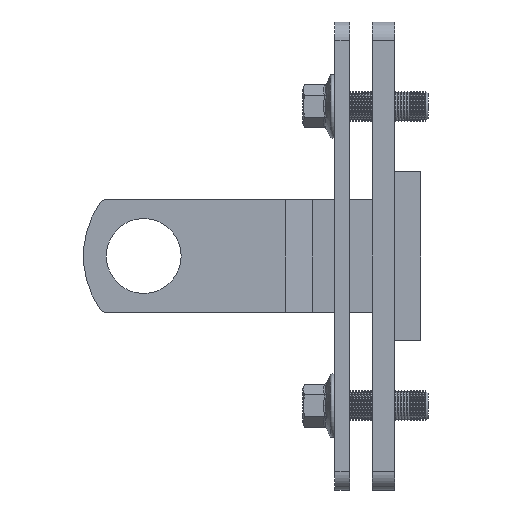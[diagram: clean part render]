
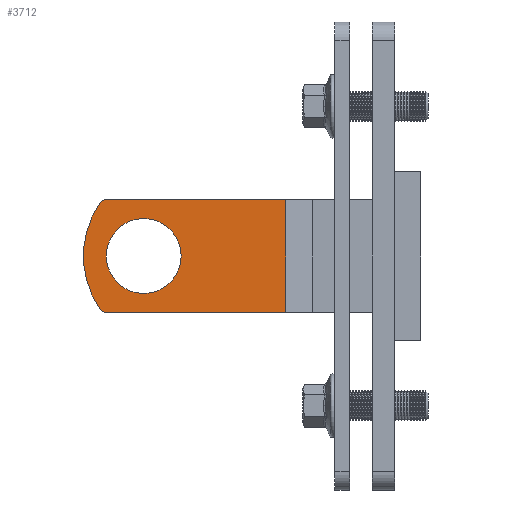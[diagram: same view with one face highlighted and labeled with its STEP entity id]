
A CAD part, left-side view. The second image highlights one B-rep face of the part: STEP entity #3712.
In plain terms, the highlighted planar face has unit normal (-1, 0, 0) as drawn and (0, 1, 0) by its records, which use the part's own axes.
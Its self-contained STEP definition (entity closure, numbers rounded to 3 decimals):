
#31 = CIRCLE ( 'NONE', #2832, 10. ) ;
#53 = EDGE_LOOP ( 'NONE', ( #3690, #7248, #247, #7037, #1002, #3991 ) ) ;
#179 = DIRECTION ( 'NONE',  ( 0., 1., 0. ) ) ;
#247 = ORIENTED_EDGE ( 'NONE', *, *, #1739, .T. ) ;
#267 = CARTESIAN_POINT ( 'NONE',  ( 14.13, -7.5, 85.724 ) ) ;
#586 = LINE ( 'NONE', #5567, #2510 ) ;
#651 = AXIS2_PLACEMENT_3D ( 'NONE', #2727, #179, #5789 ) ;
#864 = DIRECTION ( 'NONE',  ( 0., 0., 1. ) ) ;
#879 = CARTESIAN_POINT ( 'NONE',  ( 15., -7.5, 36. ) ) ;
#935 = CARTESIAN_POINT ( 'NONE',  ( 13., -7.5, 84.074 ) ) ;
#946 = ORIENTED_EDGE ( 'NONE', *, *, #3668, .T. ) ;
#1002 = ORIENTED_EDGE ( 'NONE', *, *, #6933, .T. ) ;
#1039 = DIRECTION ( 'NONE',  ( 0., -1., 0. ) ) ;
#1223 = AXIS2_PLACEMENT_3D ( 'NONE', #2156, #5813, #2781 ) ;
#1291 = AXIS2_PLACEMENT_3D ( 'NONE', #5383, #2320, #7846 ) ;
#1402 = CARTESIAN_POINT ( 'NONE',  ( -15., -7.5, 7. ) ) ;
#1487 = VERTEX_POINT ( 'NONE', #7450 ) ;
#1570 = FACE_BOUND ( 'NONE', #2654, .T. ) ;
#1712 = CARTESIAN_POINT ( 'NONE',  ( -14.13, -7.5, 85.724 ) ) ;
#1739 = EDGE_CURVE ( 'NONE', #2741, #2558, #2785, .T. ) ;
#1838 = EDGE_CURVE ( 'NONE', #2833, #2741, #7569, .T. ) ;
#2032 = VERTEX_POINT ( 'NONE', #5427 ) ;
#2068 = VERTEX_POINT ( 'NONE', #5349 ) ;
#2156 = CARTESIAN_POINT ( 'NONE',  ( -13., -7.5, 84.074 ) ) ;
#2186 = CIRCLE ( 'NONE', #7194, 2. ) ;
#2258 = AXIS2_PLACEMENT_3D ( 'NONE', #7873, #1039, #2890 ) ;
#2320 = DIRECTION ( 'NONE',  ( 0., -1., 0. ) ) ;
#2510 = VECTOR ( 'NONE', #4354, 1000. ) ;
#2558 = VERTEX_POINT ( 'NONE', #267 ) ;
#2654 = EDGE_LOOP ( 'NONE', ( #946, #6956 ) ) ;
#2727 = CARTESIAN_POINT ( 'NONE',  ( 0., -7.5, 65.1 ) ) ;
#2741 = VERTEX_POINT ( 'NONE', #1712 ) ;
#2781 = DIRECTION ( 'NONE',  ( 0., 0., -1. ) ) ;
#2785 = CIRCLE ( 'NONE', #651, 25. ) ;
#2832 = AXIS2_PLACEMENT_3D ( 'NONE', #7781, #4733, #6622 ) ;
#2833 = VERTEX_POINT ( 'NONE', #7242 ) ;
#2890 = DIRECTION ( 'NONE',  ( 0., 0., -1. ) ) ;
#2994 = LINE ( 'NONE', #1402, #5074 ) ;
#3018 = EDGE_CURVE ( 'NONE', #4079, #1487, #586, .T. ) ;
#3074 = VECTOR ( 'NONE', #4214, 1000. ) ;
#3338 = VERTEX_POINT ( 'NONE', #5837 ) ;
#3370 = DIRECTION ( 'NONE',  ( 0., 1., 0. ) ) ;
#3399 = DIRECTION ( 'NONE',  ( 0., 0., -1. ) ) ;
#3490 = EDGE_CURVE ( 'NONE', #2032, #2068, #31, .T. ) ;
#3668 = EDGE_CURVE ( 'NONE', #2068, #2032, #4514, .T. ) ;
#3690 = ORIENTED_EDGE ( 'NONE', *, *, #4707, .T. ) ;
#3712 = ADVANCED_FACE ( 'NONE', ( #1570, #6269 ), #6046, .F. ) ;
#3720 = LINE ( 'NONE', #7912, #3074 ) ;
#3991 = ORIENTED_EDGE ( 'NONE', *, *, #3018, .T. ) ;
#4079 = VERTEX_POINT ( 'NONE', #879 ) ;
#4214 = DIRECTION ( 'NONE',  ( 0., 0., -1. ) ) ;
#4354 = DIRECTION ( 'NONE',  ( -1., 0., 0. ) ) ;
#4514 = CIRCLE ( 'NONE', #1291, 10. ) ;
#4707 = EDGE_CURVE ( 'NONE', #1487, #2833, #2994, .T. ) ;
#4733 = DIRECTION ( 'NONE',  ( 0., -1., 0. ) ) ;
#5074 = VECTOR ( 'NONE', #864, 1000. ) ;
#5349 = CARTESIAN_POINT ( 'NONE',  ( 0., -7.5, 64. ) ) ;
#5383 = CARTESIAN_POINT ( 'NONE',  ( 0., -7.5, 74. ) ) ;
#5427 = CARTESIAN_POINT ( 'NONE',  ( 0., -7.5, 84. ) ) ;
#5567 = CARTESIAN_POINT ( 'NONE',  ( 22.5, -7.5, 36. ) ) ;
#5789 = DIRECTION ( 'NONE',  ( 0., 0., -1. ) ) ;
#5813 = DIRECTION ( 'NONE',  ( 0., 1., 0. ) ) ;
#5837 = CARTESIAN_POINT ( 'NONE',  ( 15., -7.5, 84.074 ) ) ;
#6046 = PLANE ( 'NONE',  #2258 ) ;
#6155 = EDGE_CURVE ( 'NONE', #2558, #3338, #2186, .T. ) ;
#6269 = FACE_OUTER_BOUND ( 'NONE', #53, .T. ) ;
#6622 = DIRECTION ( 'NONE',  ( 0., 0., -1. ) ) ;
#6933 = EDGE_CURVE ( 'NONE', #3338, #4079, #3720, .T. ) ;
#6956 = ORIENTED_EDGE ( 'NONE', *, *, #3490, .T. ) ;
#7037 = ORIENTED_EDGE ( 'NONE', *, *, #6155, .T. ) ;
#7194 = AXIS2_PLACEMENT_3D ( 'NONE', #935, #3370, #3399 ) ;
#7242 = CARTESIAN_POINT ( 'NONE',  ( -15., -7.5, 84.074 ) ) ;
#7248 = ORIENTED_EDGE ( 'NONE', *, *, #1838, .T. ) ;
#7450 = CARTESIAN_POINT ( 'NONE',  ( -15., -7.5, 36. ) ) ;
#7569 = CIRCLE ( 'NONE', #1223, 2. ) ;
#7781 = CARTESIAN_POINT ( 'NONE',  ( 0., -7.5, 74. ) ) ;
#7846 = DIRECTION ( 'NONE',  ( 0., 0., -1. ) ) ;
#7873 = CARTESIAN_POINT ( 'NONE',  ( 22.5, -7.5, 36. ) ) ;
#7912 = CARTESIAN_POINT ( 'NONE',  ( 15., -7.5, 7. ) ) ;
